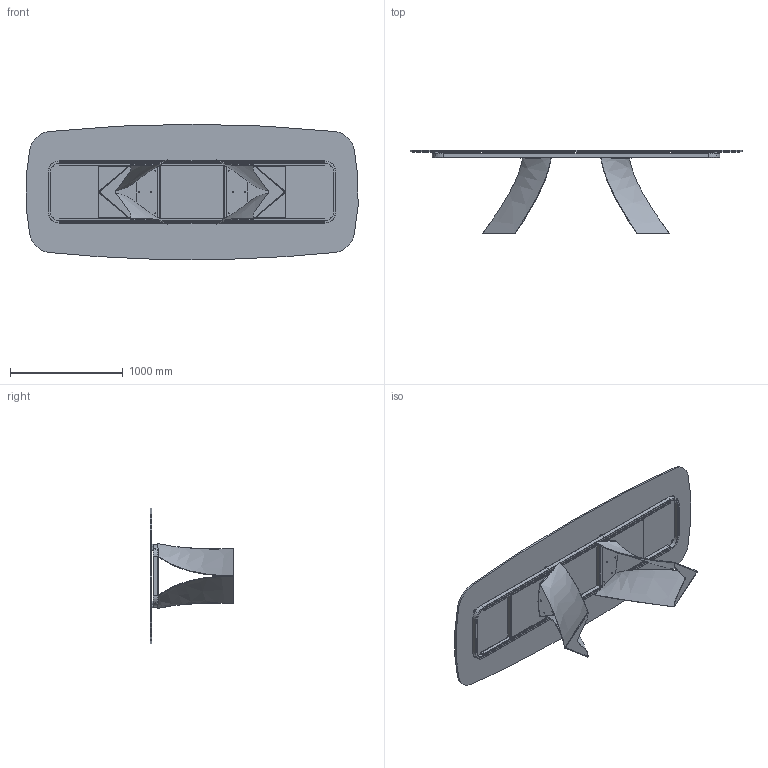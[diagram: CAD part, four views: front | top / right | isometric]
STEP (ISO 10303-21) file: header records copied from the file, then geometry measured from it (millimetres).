
FILE_DESCRIPTION (( 'STEP AP203' ), '1' );
FILE_NAME ('TW50G.STEP', '2024-08-07T12:36:02', ( '' ), ( '' ), 'SwSTEP 2.0', 'SolidWorks 2022', '' );
FILE_SCHEMA (( 'CONFIG_CONTROL_DESIGN' ));
Length unit declared in the file: millimetre
Products named in the file (10): TTAX03_02-00-VASSOIO IRRIGIDIMENTO TELAIO TWIST 300; rondella M8_8X16; TTAV10-00-TELAIO X TAVOLO TWIST 300 320cm; TWS000000BAS-00-TWIST BASE GREZZA; C4XCRXX-00-Piani Sagomati in Cristallo_2950x1200; M8xXXmm_M8x20mm; PIEDINO PLASTICA PER TWIST; 434070-00-PIEDINO TPV GOMMA NERO D. 30x8max18; TTAX03_01-00-TELAIO UNIVERSALE X TWIST 300 320cm_Default<A macchina>; TW50G
Assembly tree (43 placements, depth 3):
  TW50G
    C4XCRXX-00-Piani Sagomati in Cristallo_2950x1200
    TWS000000BAS-00-TWIST BASE GREZZA  x2
    TTAV10-00-TELAIO X TAVOLO TWIST 300 320cm
      TTAX03_01-00-TELAIO UNIVERSALE X TWIST 300 320cm_Default<A macchina>
      TTAX03_02-00-VASSOIO IRRIGIDIMENTO TELAIO TWIST 300  x2
    M8xXXmm_M8x20mm  x12
    rondella M8_8X16  x12
    434070-00-PIEDINO TPV GOMMA NERO D. 30x8max18  x8
    PIEDINO PLASTICA PER TWIST  x4
Bounding box: 2941.59 x 740.37 x 1200 mm (x, y, z)
Volume: 63152226.3 mm3; surface area: 12799343 mm2
Topology: 67 solids, 67 shells, 1271 faces, 2953 edges, 1808 vertices
Faces by surface type: plane 518, cylinder 347, torus 208, cone 132, bspline 66
Entity records: 22857 total; most frequent: CARTESIAN_POINT 8941, DIRECTION 2568, ORIENTED_EDGE 2432, EDGE_CURVE 1216, AXIS2_PLACEMENT_3D 969, VERTEX_POINT 789, VECTOR 630, LINE 630
